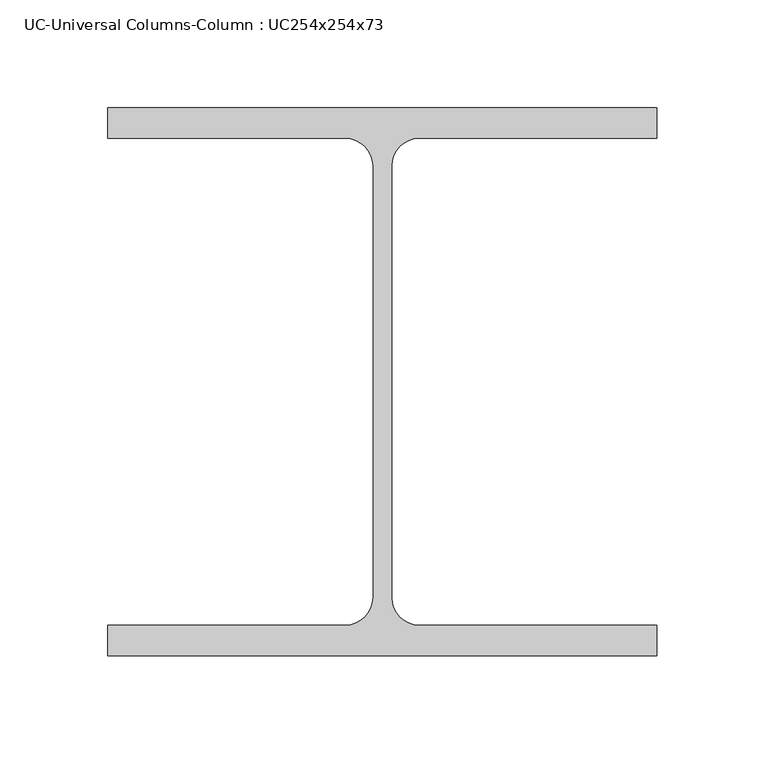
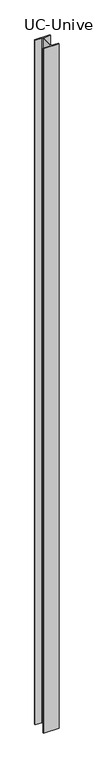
"""IFC4 building model written with IfcOpenShell, lengths in millimetres: column geometry, UC-Universal Columns-Column : UC254x254x73."""

from ifc_helpers import new_model, si_unit, point, frame, frame_2d, origin, place, context, project, spatial, polyline, circle_curve, trimmed, segment, composite_curve, outline, extrude, source, transform, mapped, element, save


def uc_universal_columns_column_uc254x254x73_8008e7d4(model_context):
    return source(origin(), model_context, "Body", "SweptSolid", [
        extrude(outline(composite_curve([segment(polyline([(127.3, 127.05), (127.3, 112.85), (17.0, 112.85)]), True, "CONTINUOUS"), segment(trimmed(circle_curve(frame_2d((17.0, 100.15)), 12.7), [point((17.0, 112.85))], [point((4.3, 100.15))], True, "CARTESIAN"), True, "CONTINUOUS"), segment(polyline([(4.3, 100.15), (4.3, -100.15)]), True, "CONTINUOUS"), segment(trimmed(circle_curve(frame_2d((17.0, -100.15)), 12.7), [point((4.3, -100.15))], [point((17.0, -112.85))], True, "CARTESIAN"), True, "CONTINUOUS"), segment(polyline([(17.0, -112.85), (127.3, -112.85), (127.3, -127.05), (-127.3, -127.05), (-127.3, -112.85), (-17.0, -112.85)]), True, "CONTINUOUS"), segment(trimmed(circle_curve(frame_2d((-17.0, -100.15)), 12.7), [point((-17.0, -112.85))], [point((-4.3, -100.15))], True, "CARTESIAN"), True, "CONTINUOUS"), segment(polyline([(-4.3, -100.15), (-4.3, 100.15)]), True, "CONTINUOUS"), segment(trimmed(circle_curve(frame_2d((-17.0, 100.15)), 12.7), [point((-4.3, 100.15))], [point((-17.0, 112.85))], True, "CARTESIAN"), True, "CONTINUOUS"), segment(polyline([(-17.0, 112.85), (-127.3, 112.85), (-127.3, 127.05), (127.3, 127.05)]), True, "CONTINUOUS")], self_intersect=False)), frame((0.0, 0.0, -1000.0), z_axis=(0.0, 0.0, 1.0), x_axis=(1.0, 0.0, 0.0)), (0.0, 0.0, 1.0), 12000.0),
    ])


if __name__ == "__main__":
    model = new_model("IFC4")
    model_context = context("Model", 3, world=origin())
    ifc_project = project(units=[si_unit("LENGTHUNIT", "METRE", prefix="MILLI")], contexts=[model_context])
    site = spatial("IfcSite", under=ifc_project)
    building = spatial("IfcBuilding", under=site)
    placement = place(None, origin())
    uc_universal_columns_column_uc254x254x73_shape = uc_universal_columns_column_uc254x254x73_8008e7d4(model_context)
    element("IfcColumn", 1, ObjectType="UC-Universal Columns-Column : UC254x254x73", at=placement, inside=building, context=model_context, shape_type="MappedRepresentation", body=[
        mapped(uc_universal_columns_column_uc254x254x73_shape, transform((0.0, 0.0, 0.0), x_axis=(1.0, 0.0, 0.0), y_axis=(0.0, 1.0, 0.0), z_axis=(0.0, 0.0, 1.0))),
    ])
    save(model, "model.ifc")
